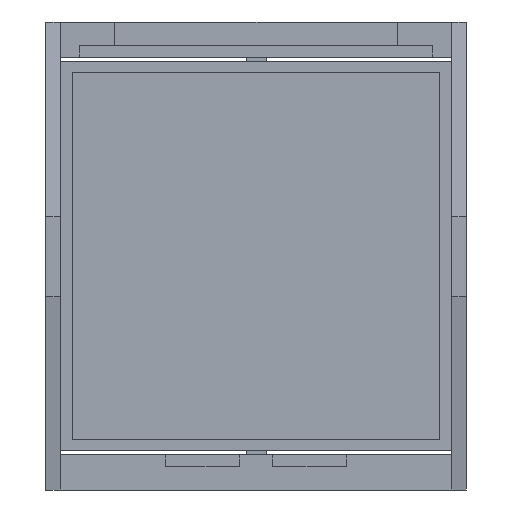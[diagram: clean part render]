
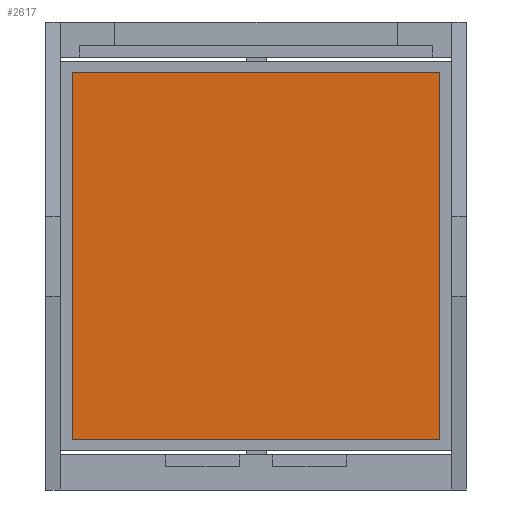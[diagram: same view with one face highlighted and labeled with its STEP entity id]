
A CAD part, front view. The second image highlights one B-rep face of the part: STEP entity #2617.
In plain terms, the highlighted planar face has unit normal (0, -1, 0).
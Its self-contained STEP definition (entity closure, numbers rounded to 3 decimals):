
#173 = EDGE_CURVE ( 'NONE', #8097, #2358, #6983, .T. ) ;
#490 = CARTESIAN_POINT ( 'NONE',  ( -66.099, -0.416, 8.342 ) ) ;
#498 = VECTOR ( 'NONE', #3480, 1000. ) ;
#885 = LINE ( 'NONE', #2202, #1659 ) ;
#997 = VECTOR ( 'NONE', #5353, 1000. ) ;
#1239 = ORIENTED_EDGE ( 'NONE', *, *, #8552, .F. ) ;
#1246 = LINE ( 'NONE', #490, #498 ) ;
#1423 = CARTESIAN_POINT ( 'NONE',  ( -66.099, -0.416, 43.342 ) ) ;
#1448 = EDGE_CURVE ( 'NONE', #2211, #2601, #5927, .T. ) ;
#1530 = DIRECTION ( 'NONE',  ( 0., 0., 1. ) ) ;
#1659 = VECTOR ( 'NONE', #3864, 1000. ) ;
#1868 = VECTOR ( 'NONE', #4500, 1000. ) ;
#2116 = EDGE_CURVE ( 'NONE', #2601, #8097, #885, .T. ) ;
#2202 = CARTESIAN_POINT ( 'NONE',  ( -66.099, -0.416, 43.342 ) ) ;
#2211 = VERTEX_POINT ( 'NONE', #4123 ) ;
#2358 = VERTEX_POINT ( 'NONE', #4604 ) ;
#2601 = VERTEX_POINT ( 'NONE', #4547 ) ;
#2617 = ADVANCED_FACE ( 'NONE', ( #5195 ), #8859, .F. ) ;
#2780 = ORIENTED_EDGE ( 'NONE', *, *, #1448, .F. ) ;
#3468 = ORIENTED_EDGE ( 'NONE', *, *, #2116, .F. ) ;
#3480 = DIRECTION ( 'NONE',  ( -1., 0., 0. ) ) ;
#3864 = DIRECTION ( 'NONE',  ( 1., 0., 0. ) ) ;
#4123 = CARTESIAN_POINT ( 'NONE',  ( -66.099, -0.416, 8.342 ) ) ;
#4394 = DIRECTION ( 'NONE',  ( 0., 1., 0. ) ) ;
#4500 = DIRECTION ( 'NONE',  ( 0., 0., 1. ) ) ;
#4547 = CARTESIAN_POINT ( 'NONE',  ( -66.099, -0.416, 43.342 ) ) ;
#4604 = CARTESIAN_POINT ( 'NONE',  ( -31.099, -0.416, 8.342 ) ) ;
#4747 = ORIENTED_EDGE ( 'NONE', *, *, #173, .F. ) ;
#5195 = FACE_OUTER_BOUND ( 'NONE', #7415, .T. ) ;
#5295 = CARTESIAN_POINT ( 'NONE',  ( -31.099, -0.416, 8.342 ) ) ;
#5353 = DIRECTION ( 'NONE',  ( 0., 0., -1. ) ) ;
#5927 = LINE ( 'NONE', #6069, #1868 ) ;
#6069 = CARTESIAN_POINT ( 'NONE',  ( -66.099, -0.416, 8.342 ) ) ;
#6983 = LINE ( 'NONE', #5295, #997 ) ;
#7415 = EDGE_LOOP ( 'NONE', ( #2780, #1239, #4747, #3468 ) ) ;
#8065 = AXIS2_PLACEMENT_3D ( 'NONE', #1423, #4394, #1530 ) ;
#8097 = VERTEX_POINT ( 'NONE', #8758 ) ;
#8552 = EDGE_CURVE ( 'NONE', #2358, #2211, #1246, .T. ) ;
#8758 = CARTESIAN_POINT ( 'NONE',  ( -31.099, -0.416, 43.342 ) ) ;
#8859 = PLANE ( 'NONE',  #8065 ) ;
